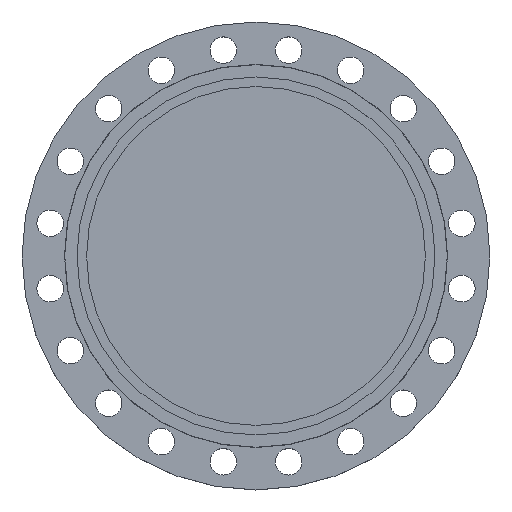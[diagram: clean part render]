
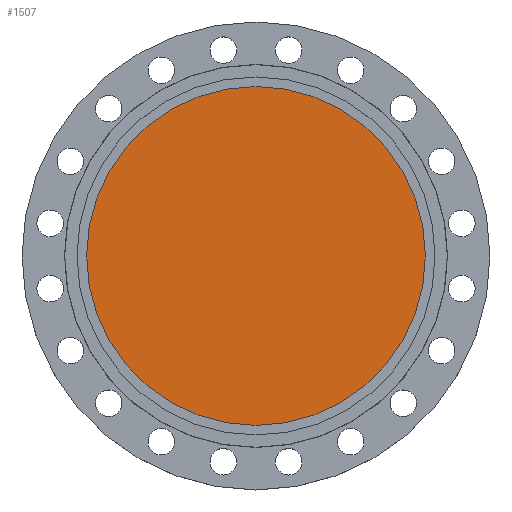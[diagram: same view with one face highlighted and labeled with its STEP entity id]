
A CAD part, top view. The second image highlights one B-rep face of the part: STEP entity #1507.
In plain terms, the highlighted planar face has unit normal (0, 0, 1).
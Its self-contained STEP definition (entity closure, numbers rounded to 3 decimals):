
#15 = DIRECTION ( 'NONE',  ( -1., 0., 0. ) ) ;
#18 = EDGE_LOOP ( 'NONE', ( #1518, #150 ) ) ;
#150 = ORIENTED_EDGE ( 'NONE', *, *, #466, .F. ) ;
#466 = EDGE_CURVE ( 'NONE', #1841, #778, #654, .T. ) ;
#549 = DIRECTION ( 'NONE',  ( -1., 0., 0. ) ) ;
#552 = DIRECTION ( 'NONE',  ( 0., 0., 1. ) ) ;
#654 = CIRCLE ( 'NONE', #655, 248. ) ;
#655 = AXIS2_PLACEMENT_3D ( 'NONE', #1316, #1840, #549 ) ;
#706 = FACE_OUTER_BOUND ( 'NONE', #18, .T. ) ;
#759 = CARTESIAN_POINT ( 'NONE',  ( 0., 0., 0. ) ) ;
#778 = VERTEX_POINT ( 'NONE', #1838 ) ;
#1149 = AXIS2_PLACEMENT_3D ( 'NONE', #1842, #552, #1162 ) ;
#1162 = DIRECTION ( 'NONE',  ( 1., 0., 0. ) ) ;
#1287 = EDGE_CURVE ( 'NONE', #778, #1841, #1513, .T. ) ;
#1316 = CARTESIAN_POINT ( 'NONE',  ( 0., 0., 0. ) ) ;
#1319 = PLANE ( 'NONE',  #1149 ) ;
#1361 = DIRECTION ( 'NONE',  ( 0., 0., -1. ) ) ;
#1506 = AXIS2_PLACEMENT_3D ( 'NONE', #759, #1361, #15 ) ;
#1507 = ADVANCED_FACE ( 'NONE', ( #706 ), #1319, .T. ) ;
#1513 = CIRCLE ( 'NONE', #1506, 248. ) ;
#1518 = ORIENTED_EDGE ( 'NONE', *, *, #1287, .F. ) ;
#1533 = CARTESIAN_POINT ( 'NONE',  ( 248., 0., 0. ) ) ;
#1838 = CARTESIAN_POINT ( 'NONE',  ( -248., 0., 0. ) ) ;
#1840 = DIRECTION ( 'NONE',  ( 0., 0., -1. ) ) ;
#1841 = VERTEX_POINT ( 'NONE', #1533 ) ;
#1842 = CARTESIAN_POINT ( 'NONE',  ( 0., 0., 0. ) ) ;
